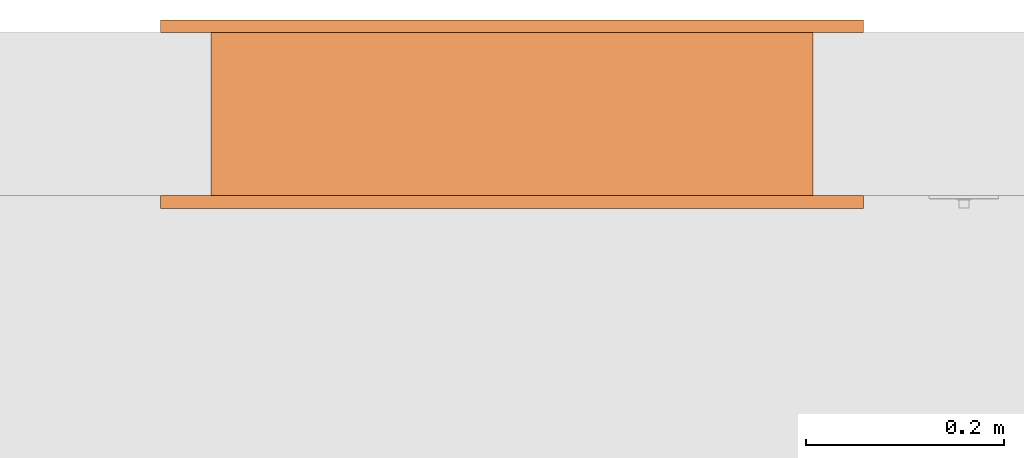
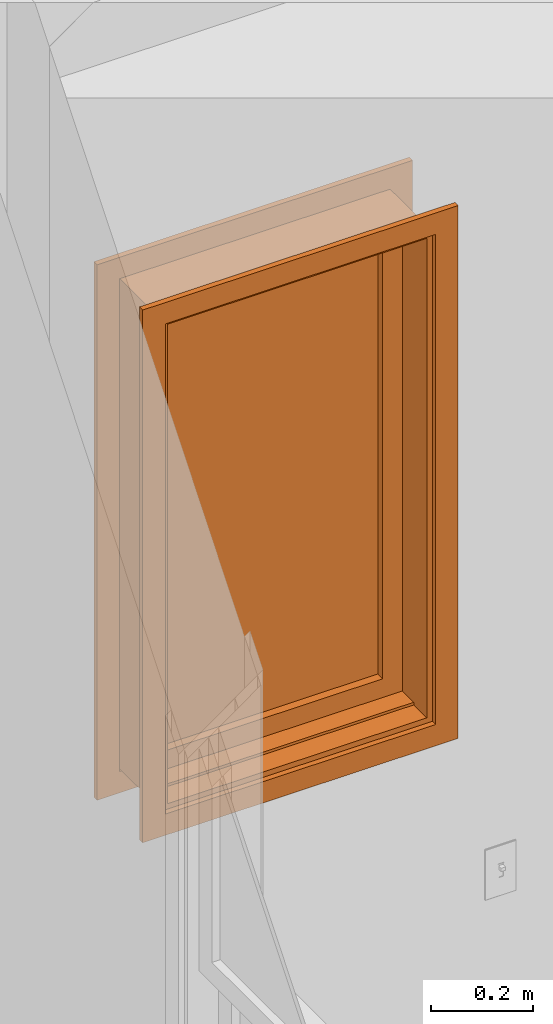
# One storey, part 61 of 103: 1 proxy.
"""IFC2X3 building model written with IfcOpenShell, lengths in inches."""

from ifc_helpers import new_model, entity, si_unit, converted_unit, derived_unit, money_unit, direction, frame, origin_with_axes, place, context, subcontext, project, spatial, faceted_brep, source, transform, mapped, type_object, element, save


model = new_model("IFC2X3")

# Units and contexts
model_context = context("Model", 3, precision=0.00039370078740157, world=origin_with_axes(), true_north=direction((0.0, 1.0)))
plan_context = context("Plan", 3, precision=0.00039370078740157, world=origin_with_axes(), true_north=direction((0.0, 1.0)))
body_context = subcontext(model_context, "Body", "Model", "MODEL_VIEW")
ifc_project = project(units=[converted_unit("LENGTHUNIT", "INCH", entity("IfcPositiveLengthMeasure", 0.0254), si_unit("LENGTHUNIT", "METRE"), dimensions=[1, 0, 0, 0, 0, 0, 0]), converted_unit("AREAUNIT", "SQUARE_FOOT", entity("IfcPositiveLengthMeasure", 0.09290304), si_unit("AREAUNIT", "SQUARE_METRE"), dimensions=[2, 0, 0, 0, 0, 0, 0]), si_unit("PLANEANGLEUNIT", "RADIAN"), si_unit("SOLIDANGLEUNIT", "STERADIAN"), money_unit("USD"), converted_unit("TIMEUNIT", "Year", entity("IfcTimeMeasure", 31557600.0), si_unit("TIMEUNIT", "SECOND"), dimensions=[0, 0, 1, 0, 0, 0, 0]), si_unit("MASSUNIT", "GRAM", prefix="KILO"), si_unit("THERMODYNAMICTEMPERATUREUNIT", "DEGREE_CELSIUS"), si_unit("LUMINOUSINTENSITYUNIT", "LUMEN"), si_unit("ENERGYUNIT", "JOULE", prefix="MEGA"), derived_unit("SPECIFICHEATCAPACITYUNIT", [(si_unit("ENERGYUNIT", "JOULE"), 1), (si_unit("MASSUNIT", "GRAM", prefix="KILO"), -1), (si_unit("THERMODYNAMICTEMPERATUREUNIT", "KELVIN"), -1)])], contexts=[model_context, plan_context])

# Site, building, storey
site_placement = place(None, origin_with_axes())
site = spatial("IfcSite", under=ifc_project, at=site_placement, Name="Site", CompositionType="ELEMENT")
building_placement = place(site_placement, origin_with_axes())
building = spatial("IfcBuilding", under=site, at=building_placement, Name="Building", CompositionType="ELEMENT")
storey_placement = place(building_placement, frame((0.0, 0.0, 127.9999999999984), z_axis=(0.0, 0.0, 1.0), x_axis=(1.0, 0.0, 0.0)))
storey = spatial("IfcBuildingStorey", under=building, at=storey_placement, Name="Second Floor", CompositionType="ELEMENT", Elevation=128.0)

# Proxy
building_element_proxy_type = type_object("IfcBuildingElementProxyType", Name="W Fixed", PredefinedType="NOTDEFINED")
shared_shape = source(origin_with_axes(), body_context, "Body", "Brep", [
    faceted_brep([(-11.99999999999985, -4.499999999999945, 0.0), (11.99999999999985, -4.499999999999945, 0.0), (11.99999999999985, -6.49999999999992, 0.0), (-11.99999999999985, -6.49999999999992, 0.0), (-11.99999999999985, -4.49999999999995, 45.99999999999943), (11.99999999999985, -4.49999999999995, 45.99999999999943), (-11.49999999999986, -4.499999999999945, 0.4999999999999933), (11.49999999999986, -4.499999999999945, 0.4999999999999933), (11.49999999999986, -4.49999999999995, 45.49999999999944), (-11.49999999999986, -4.49999999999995, 45.49999999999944), (11.99999999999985, -6.499999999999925, 45.99999999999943), (-11.99999999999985, -6.499999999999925, 45.99999999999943), (-11.49999999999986, -6.49999999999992, 0.4999999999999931), (-11.49999999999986, -6.499999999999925, 45.49999999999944), (11.49999999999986, -6.499999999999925, 45.49999999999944), (11.49999999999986, -6.49999999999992, 0.4999999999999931)], [[[0, 1, 2, 3]], [[0, 4, 5, 1], [6, 7, 8, 9]], [[1, 5, 10, 2]], [[3, 2, 10, 11], [12, 13, 14, 15]], [[4, 0, 3, 11]], [[5, 4, 11, 10]], [[7, 6, 12, 15]], [[8, 7, 15, 14]], [[9, 8, 14, 13]], [[6, 9, 13, 12]]]),
    faceted_brep([(-13.99999999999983, -6.999999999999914, -1.999999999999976), (-13.99999999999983, -6.499999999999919, -1.999999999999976), (-11.99999999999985, -6.49999999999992, 0.0), (-11.99999999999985, -6.999999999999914, 0.0), (-13.99999999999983, -6.999999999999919, 47.9999999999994), (-13.99999999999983, -6.499999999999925, 47.9999999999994), (-11.99999999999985, -6.499999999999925, 45.99999999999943), (-11.99999999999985, -6.999999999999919, 45.99999999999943)], [[[0, 1, 2, 3]], [[4, 5, 1, 0]], [[1, 5, 6, 2]], [[3, 2, 6, 7]], [[0, 3, 7, 4]], [[7, 6, 5, 4]]]),
    faceted_brep([(13.99999999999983, -6.999999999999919, 47.9999999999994), (13.99999999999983, -6.499999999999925, 47.9999999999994), (11.99999999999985, -6.499999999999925, 45.99999999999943), (11.99999999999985, -6.999999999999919, 45.99999999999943), (13.99999999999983, -6.999999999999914, -1.999999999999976), (13.99999999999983, -6.499999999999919, -1.999999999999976), (11.99999999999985, -6.49999999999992, 0.0), (11.99999999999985, -6.999999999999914, 0.0)], [[[0, 1, 2, 3]], [[4, 5, 1, 0]], [[1, 5, 6, 2]], [[3, 2, 6, 7]], [[0, 3, 7, 4]], [[7, 6, 5, 4]]]),
    faceted_brep([(13.99999999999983, -6.999999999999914, -1.999999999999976), (13.99999999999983, -6.499999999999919, -1.999999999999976), (11.99999999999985, -6.49999999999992, 0.0), (11.99999999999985, -6.999999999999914, 0.0), (-13.99999999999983, -6.999999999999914, -1.999999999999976), (-13.99999999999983, -6.499999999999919, -1.999999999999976), (-11.99999999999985, -6.49999999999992, 0.0), (-11.99999999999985, -6.999999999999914, 0.0)], [[[0, 1, 2, 3]], [[4, 5, 1, 0]], [[1, 5, 6, 2]], [[3, 2, 6, 7]], [[0, 3, 7, 4]], [[7, 6, 5, 4]]]),
    faceted_brep([(-13.99999999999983, -6.999999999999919, 47.9999999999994), (-13.99999999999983, -6.499999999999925, 47.9999999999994), (-11.99999999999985, -6.499999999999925, 45.99999999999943), (-11.99999999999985, -6.999999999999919, 45.99999999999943), (13.99999999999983, -6.999999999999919, 47.9999999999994), (13.99999999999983, -6.499999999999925, 47.9999999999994), (11.99999999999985, -6.499999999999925, 45.99999999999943), (11.99999999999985, -6.999999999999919, 45.99999999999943)], [[[0, 1, 2, 3]], [[4, 5, 1, 0]], [[1, 5, 6, 2]], [[3, 2, 6, 7]], [[0, 3, 7, 4]], [[7, 6, 5, 4]]]),
    faceted_brep([(-13.99999999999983, 0.4999999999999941, -2.249999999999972), (-11.99999999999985, 0.4999999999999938, -0.2499999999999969), (-11.99999999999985, 0.0, -0.249999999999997), (-13.99999999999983, 0.0, -2.249999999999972), (-13.99999999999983, 0.499999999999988, 47.9999999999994), (-11.99999999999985, 0.4999999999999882, 45.99999999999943), (-11.99999999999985, 0.0, 45.99999999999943), (-13.99999999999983, 0.0, 47.9999999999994)], [[[0, 1, 2, 3]], [[0, 4, 5, 1]], [[1, 5, 6, 2]], [[3, 2, 6, 7]], [[4, 0, 3, 7]], [[5, 4, 7, 6]]]),
    faceted_brep([(13.99999999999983, 0.499999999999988, 47.9999999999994), (11.99999999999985, 0.4999999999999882, 45.99999999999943), (11.99999999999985, 0.0, 45.99999999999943), (13.99999999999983, 0.0, 47.9999999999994), (13.99999999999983, 0.4999999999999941, -2.249999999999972), (11.99999999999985, 0.4999999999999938, -0.2499999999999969), (11.99999999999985, 0.0, -0.249999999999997), (13.99999999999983, 0.0, -2.249999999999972)], [[[0, 1, 2, 3]], [[0, 4, 5, 1]], [[1, 5, 6, 2]], [[3, 2, 6, 7]], [[4, 0, 3, 7]], [[5, 4, 7, 6]]]),
    faceted_brep([(13.99999999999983, 0.4999999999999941, -2.249999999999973), (11.99999999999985, 0.4999999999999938, -0.2499999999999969), (11.99999999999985, 0.0, -0.249999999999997), (13.99999999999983, 0.0, -2.249999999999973), (-13.99999999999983, 0.4999999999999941, -2.249999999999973), (-11.99999999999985, 0.4999999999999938, -0.2499999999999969), (-11.99999999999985, 0.0, -0.249999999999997), (-13.99999999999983, 0.0, -2.249999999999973)], [[[0, 1, 2, 3]], [[0, 4, 5, 1]], [[1, 5, 6, 2]], [[3, 2, 6, 7]], [[4, 0, 3, 7]], [[5, 4, 7, 6]]]),
    faceted_brep([(-13.99999999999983, 0.499999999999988, 47.9999999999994), (-11.99999999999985, 0.4999999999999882, 45.99999999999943), (-11.99999999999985, 0.0, 45.99999999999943), (-13.99999999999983, 0.0, 47.9999999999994), (13.99999999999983, 0.499999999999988, 47.9999999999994), (11.99999999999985, 0.4999999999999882, 45.99999999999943), (11.99999999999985, 0.0, 45.99999999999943), (13.99999999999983, 0.0, 47.9999999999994)], [[[0, 1, 2, 3]], [[0, 4, 5, 1]], [[1, 5, 6, 2]], [[3, 2, 6, 7]], [[4, 0, 3, 7]], [[5, 4, 7, 6]]]),
    faceted_brep([(-11.50039370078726, -4.499999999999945, 0.7539370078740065), (-11.50039370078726, -4.49999999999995, 45.49606299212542), (-11.99999999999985, -4.49999999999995, 45.49606299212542), (-11.99999999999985, -4.499999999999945, 0.7539370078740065), (-11.50039370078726, -2.749999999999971, 45.49606299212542), (-11.50039370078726, -2.749999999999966, 0.7539370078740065), (-11.74999999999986, -2.749999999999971, 45.49606299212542), (-11.74999999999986, 0.0, 45.49606299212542), (-11.99999999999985, 0.0, 45.49606299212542), (-11.99999999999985, 0.0, 0.7539370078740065), (-11.74999999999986, 0.0, 0.7539370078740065), (-11.74999999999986, -2.749999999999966, 0.7539370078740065)], [[[0, 1, 2, 3]], [[4, 1, 0, 5]], [[1, 4, 6, 7, 8, 2]], [[9, 3, 2, 8]], [[5, 0, 3, 9, 10, 11]], [[4, 5, 11, 6]], [[11, 10, 7, 6]], [[9, 8, 7, 10]]]),
    faceted_brep([(11.50039370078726, -2.749999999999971, 45.49606299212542), (11.50039370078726, -4.49999999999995, 45.49606299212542), (11.99999999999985, -4.49999999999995, 45.49606299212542), (11.99999999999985, 0.0, 45.49606299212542), (11.74999999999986, 0.0, 45.49606299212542), (11.74999999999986, -2.749999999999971, 45.49606299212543), (11.50039370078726, -4.499999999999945, 0.7539370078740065), (11.50039370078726, -2.749999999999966, 0.7539370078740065), (11.99999999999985, -4.499999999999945, 0.7539370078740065), (11.99999999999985, 0.0, 0.7539370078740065), (11.74999999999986, 0.0, 0.7539370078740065), (11.74999999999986, -2.749999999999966, 0.7539370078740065)], [[[0, 1, 2, 3, 4, 5]], [[6, 1, 0, 7]], [[1, 6, 8, 2]], [[3, 2, 8, 9]], [[3, 9, 10, 4]], [[11, 5, 4, 10]], [[7, 0, 5, 11]], [[6, 7, 11, 10, 9, 8]]]),
    faceted_brep([(11.50039370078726, -2.749999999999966, 0.7539370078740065), (11.50039370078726, -4.499999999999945, 0.7539370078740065), (11.99999999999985, -4.499999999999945, 0.7539370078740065), (11.99999999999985, 0.0, 0.7539370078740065), (11.74999999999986, 0.0, 0.7539370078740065), (11.74999999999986, -2.749999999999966, 0.7539370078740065), (11.50039370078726, -4.499999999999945, 0.7496062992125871), (11.50039370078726, -2.749999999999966, 0.7496062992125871), (-11.50039370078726, -4.499999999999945, 0.7496062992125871), (-11.50039370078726, -4.499999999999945, 0.7539370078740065), (-11.99999999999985, -4.499999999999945, 0.7539370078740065), (-11.99999999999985, -4.499999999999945, 0.0), (11.99999999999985, -4.499999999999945, 0.0), (11.99999999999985, 0.0, 0.0), (-11.99999999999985, 0.0, 0.0), (-11.99999999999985, 0.0, 0.7539370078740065), (-11.74999999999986, 0.0, 0.7539370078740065), (-11.74999999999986, 0.0, 0.4999999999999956), (11.74999999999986, 0.0, 0.4999999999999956), (11.74999999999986, -2.749999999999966, 0.4999999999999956), (-11.74999999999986, -2.749999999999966, 0.4999999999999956), (-11.74999999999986, -2.749999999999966, 0.7539370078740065), (-11.50039370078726, -2.749999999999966, 0.7539370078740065), (-11.50039370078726, -2.749999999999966, 0.7496062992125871)], [[[0, 1, 2, 3, 4, 5]], [[6, 1, 0, 7]], [[8, 9, 10, 11, 12, 2, 1, 6]], [[3, 2, 12, 13]], [[14, 15, 16, 17, 18, 4, 3, 13]], [[19, 5, 4, 18]], [[7, 0, 5, 19, 20, 21, 22, 23]], [[8, 6, 7, 23]], [[22, 9, 8, 23]], [[9, 22, 21, 16, 15, 10]], [[14, 11, 10, 15]], [[13, 12, 11, 14]], [[20, 17, 16, 21]], [[20, 19, 18, 17]]]),
    faceted_brep([(-11.50039370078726, -4.49999999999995, 45.49606299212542), (-11.50039370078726, -4.49999999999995, 45.50039370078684), (11.50039370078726, -4.49999999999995, 45.50039370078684), (11.50039370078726, -4.49999999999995, 45.49606299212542), (11.99999999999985, -4.49999999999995, 45.49606299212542), (11.99999999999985, -4.49999999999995, 45.99999999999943), (-11.99999999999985, -4.49999999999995, 45.99999999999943), (-11.99999999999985, -4.49999999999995, 45.49606299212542), (-11.50039370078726, -2.749999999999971, 45.49606299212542), (-11.50039370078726, -2.749999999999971, 45.50039370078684), (11.50039370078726, -2.749999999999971, 45.50039370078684), (11.50039370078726, -2.749999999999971, 45.49606299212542), (11.74999999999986, -2.749999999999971, 45.49606299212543), (11.74999999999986, 0.0, 45.49606299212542), (11.99999999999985, 0.0, 45.49606299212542), (11.99999999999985, 0.0, 45.99999999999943), (-11.99999999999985, 0.0, 45.99999999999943), (-11.99999999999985, 0.0, 45.49606299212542), (-11.74999999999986, 0.0, 45.49606299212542), (-11.74999999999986, -2.749999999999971, 45.49606299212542), (-11.74999999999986, -2.749999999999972, 45.74999999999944), (11.74999999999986, -2.749999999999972, 45.74999999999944), (11.74999999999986, 0.0, 45.74999999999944), (-11.74999999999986, 0.0, 45.74999999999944)], [[[0, 1, 2, 3, 4, 5, 6, 7]], [[1, 0, 8, 9]], [[2, 1, 9, 10]], [[3, 2, 10, 11]], [[3, 11, 12, 13, 14, 4]], [[15, 5, 4, 14]], [[16, 6, 5, 15]], [[17, 7, 6, 16]], [[8, 0, 7, 17, 18, 19]], [[9, 8, 19, 20, 21, 12, 11, 10]], [[12, 21, 22, 13]], [[13, 22, 23, 18, 17, 16, 15, 14]], [[20, 19, 18, 23]], [[21, 20, 23, 22]]]),
    faceted_brep([(-9.74999999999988, -2.749999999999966, 2.499999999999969), (-9.74999999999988, -1.874999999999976, 2.499999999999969), (-9.74999999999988, -1.874999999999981, 43.74999999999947), (-9.74999999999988, -2.749999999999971, 43.74999999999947), (-11.74999999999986, -2.749999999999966, 2.499999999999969), (-11.74999999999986, -1.874999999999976, 2.499999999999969), (-11.74999999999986, -1.874999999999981, 43.74999999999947), (-11.74999999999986, -2.749999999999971, 43.74999999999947)], [[[0, 1, 2, 3]], [[4, 5, 1, 0]], [[1, 5, 6, 2]], [[3, 2, 6, 7]], [[0, 3, 7, 4]], [[7, 6, 5, 4]]]),
    faceted_brep([(11.74999999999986, -2.749999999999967, 2.499999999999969), (11.74999999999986, -1.874999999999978, 2.499999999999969), (11.74999999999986, -1.874999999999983, 43.74999999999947), (11.74999999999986, -2.749999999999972, 43.74999999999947), (9.74999999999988, -2.749999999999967, 2.499999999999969), (9.74999999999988, -1.874999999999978, 2.499999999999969), (9.74999999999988, -1.874999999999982, 43.74999999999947), (9.74999999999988, -2.749999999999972, 43.74999999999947)], [[[0, 1, 2, 3]], [[4, 5, 1, 0]], [[1, 5, 6, 2]], [[3, 2, 6, 7]], [[0, 3, 7, 4]], [[7, 6, 5, 4]]]),
    faceted_brep([(11.74999999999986, -2.749999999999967, 0.4999999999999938), (11.74999999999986, -1.874999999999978, 0.4999999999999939), (11.74999999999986, -1.874999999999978, 2.499999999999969), (11.74999999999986, -2.749999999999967, 2.499999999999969), (-11.74999999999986, -2.749999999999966, 0.4999999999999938), (-11.74999999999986, -1.874999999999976, 0.4999999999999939), (-11.74999999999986, -1.874999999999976, 2.499999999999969), (-9.74999999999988, -1.874999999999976, 2.499999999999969), (-0.9999999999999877, -1.874999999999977, 2.499999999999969), (0.9999999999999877, -1.874999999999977, 2.499999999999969), (9.74999999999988, -1.874999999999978, 2.499999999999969), (9.74999999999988, -2.749999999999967, 2.499999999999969), (0.9999999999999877, -2.749999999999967, 2.499999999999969), (-0.9999999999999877, -2.749999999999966, 2.499999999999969), (-9.74999999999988, -2.749999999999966, 2.499999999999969), (-11.74999999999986, -2.749999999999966, 2.499999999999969)], [[[0, 1, 2, 3]], [[4, 5, 1, 0]], [[1, 5, 6, 7, 8, 9, 10, 2]], [[3, 2, 10, 11]], [[0, 3, 11, 12, 13, 14, 15, 4]], [[15, 6, 5, 4]], [[14, 7, 6, 15]], [[13, 8, 7, 14]], [[12, 9, 8, 13]], [[11, 10, 9, 12]]]),
    faceted_brep([(-11.74999999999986, -2.749999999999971, 45.74999999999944), (-11.74999999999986, -1.874999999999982, 45.74999999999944), (-11.74999999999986, -1.874999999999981, 43.74999999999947), (-11.74999999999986, -2.749999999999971, 43.74999999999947), (11.74999999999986, -2.749999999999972, 45.74999999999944), (11.74999999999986, -1.874999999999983, 45.74999999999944), (11.74999999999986, -1.874999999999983, 43.74999999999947), (9.74999999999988, -1.874999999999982, 43.74999999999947), (0.9999999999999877, -1.874999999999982, 43.74999999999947), (-0.9999999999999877, -1.874999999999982, 43.74999999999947), (-9.74999999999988, -1.874999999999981, 43.74999999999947), (-9.74999999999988, -2.749999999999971, 43.74999999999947), (-0.9999999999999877, -2.749999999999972, 43.74999999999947), (0.9999999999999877, -2.749999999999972, 43.74999999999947), (9.74999999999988, -2.749999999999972, 43.74999999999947), (11.74999999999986, -2.749999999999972, 43.74999999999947)], [[[0, 1, 2, 3]], [[4, 5, 1, 0]], [[1, 5, 6, 7, 8, 9, 10, 2]], [[3, 2, 10, 11]], [[0, 3, 11, 12, 13, 14, 15, 4]], [[15, 6, 5, 4]], [[14, 7, 6, 15]], [[13, 8, 7, 14]], [[12, 9, 8, 13]], [[11, 10, 9, 12]]]),
    faceted_brep([(-9.74999999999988, -1.874999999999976, 2.499999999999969), (-9.74999999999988, -0.9999999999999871, 2.499999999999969), (-9.74999999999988, -0.9999999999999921, 43.74999999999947), (-9.74999999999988, -1.874999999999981, 43.74999999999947), (-11.74999999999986, -1.874999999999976, 2.499999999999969), (-11.74999999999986, -0.9999999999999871, 2.499999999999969), (-11.74999999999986, -0.9999999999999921, 43.74999999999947), (-11.74999999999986, -1.874999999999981, 43.74999999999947)], [[[0, 1, 2, 3]], [[4, 5, 1, 0]], [[1, 5, 6, 2]], [[3, 2, 6, 7]], [[0, 3, 7, 4]], [[7, 6, 5, 4]]]),
    faceted_brep([(11.74999999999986, -1.874999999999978, 2.499999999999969), (11.74999999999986, -0.9999999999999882, 2.499999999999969), (11.74999999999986, -0.9999999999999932, 43.74999999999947), (11.74999999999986, -1.874999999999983, 43.74999999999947), (9.74999999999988, -1.874999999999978, 2.499999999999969), (9.74999999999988, -0.9999999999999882, 2.499999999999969), (9.74999999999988, -0.9999999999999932, 43.74999999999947), (9.74999999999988, -1.874999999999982, 43.74999999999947)], [[[0, 1, 2, 3]], [[4, 5, 1, 0]], [[1, 5, 6, 2]], [[3, 2, 6, 7]], [[0, 3, 7, 4]], [[7, 6, 5, 4]]]),
    faceted_brep([(11.74999999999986, -1.874999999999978, 0.4999999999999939), (11.74999999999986, -0.999999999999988, 0.499999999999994), (11.74999999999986, -0.9999999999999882, 2.499999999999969), (11.74999999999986, -1.874999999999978, 2.499999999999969), (-11.74999999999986, -1.874999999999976, 0.4999999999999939), (-11.74999999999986, -0.9999999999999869, 0.499999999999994), (-11.74999999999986, -0.9999999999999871, 2.499999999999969), (-9.74999999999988, -0.9999999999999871, 2.499999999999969), (-0.9999999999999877, -0.9999999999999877, 2.499999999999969), (0.9999999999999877, -0.9999999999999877, 2.499999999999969), (9.74999999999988, -0.9999999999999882, 2.499999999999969), (9.74999999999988, -1.874999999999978, 2.499999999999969), (0.9999999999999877, -1.874999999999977, 2.499999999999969), (-0.9999999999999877, -1.874999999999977, 2.499999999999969), (-9.74999999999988, -1.874999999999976, 2.499999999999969), (-11.74999999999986, -1.874999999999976, 2.499999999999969)], [[[0, 1, 2, 3]], [[4, 5, 1, 0]], [[1, 5, 6, 7, 8, 9, 10, 2]], [[3, 2, 10, 11]], [[0, 3, 11, 12, 13, 14, 15, 4]], [[15, 6, 5, 4]], [[14, 7, 6, 15]], [[13, 8, 7, 14]], [[12, 9, 8, 13]], [[11, 10, 9, 12]]]),
    faceted_brep([(-11.74999999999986, -1.874999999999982, 45.74999999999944), (-11.74999999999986, -0.9999999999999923, 45.74999999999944), (-11.74999999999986, -0.9999999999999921, 43.74999999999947), (-11.74999999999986, -1.874999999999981, 43.74999999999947), (11.74999999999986, -1.874999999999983, 45.74999999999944), (11.74999999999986, -0.9999999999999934, 45.74999999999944), (11.74999999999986, -0.9999999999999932, 43.74999999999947), (9.74999999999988, -0.9999999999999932, 43.74999999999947), (0.9999999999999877, -0.9999999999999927, 43.74999999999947), (-0.9999999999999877, -0.9999999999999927, 43.74999999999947), (-9.74999999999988, -0.9999999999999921, 43.74999999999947), (-9.74999999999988, -1.874999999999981, 43.74999999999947), (-0.9999999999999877, -1.874999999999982, 43.74999999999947), (0.9999999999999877, -1.874999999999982, 43.74999999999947), (9.74999999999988, -1.874999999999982, 43.74999999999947), (11.74999999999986, -1.874999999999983, 43.74999999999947)], [[[0, 1, 2, 3]], [[4, 5, 1, 0]], [[1, 5, 6, 7, 8, 9, 10, 2]], [[3, 2, 10, 11]], [[0, 3, 11, 12, 13, 14, 15, 4]], [[15, 6, 5, 4]], [[14, 7, 6, 15]], [[13, 8, 7, 14]], [[12, 9, 8, 13]], [[11, 10, 9, 12]]]),
    faceted_brep([(-9.74999999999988, -1.999999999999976, 2.499999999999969), (-9.74999999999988, -1.749999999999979, 2.499999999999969), (9.74999999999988, -1.749999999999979, 2.499999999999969), (9.74999999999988, -1.999999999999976, 2.499999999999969), (-9.74999999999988, -1.999999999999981, 43.74999999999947), (-9.74999999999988, -1.749999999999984, 43.74999999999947), (9.74999999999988, -1.749999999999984, 43.74999999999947), (9.74999999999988, -1.999999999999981, 43.74999999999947)], [[[0, 1, 2, 3]], [[4, 5, 1, 0]], [[1, 5, 6, 2]], [[3, 2, 6, 7]], [[0, 3, 7, 4]], [[7, 6, 5, 4]]]),
])
proxy_placement = place(storey_placement, frame((-245.7499999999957, 594.9999999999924, 47.9999999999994), z_axis=(0.0, 0.0, 1.0), x_axis=(1.0, 0.0, 0.0)))
element("IfcBuildingElementProxy", 1, at=proxy_placement, inside=storey, type_object=building_element_proxy_type, Name="WD - 002", context=body_context, shape_type="MappedRepresentation", body=[
    mapped(shared_shape, transform((11.99999999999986, 6.499999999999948, 0.0))),
])

save(model, "model.ifc")
